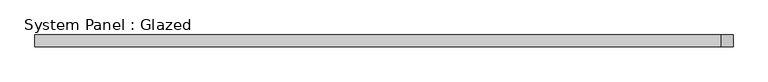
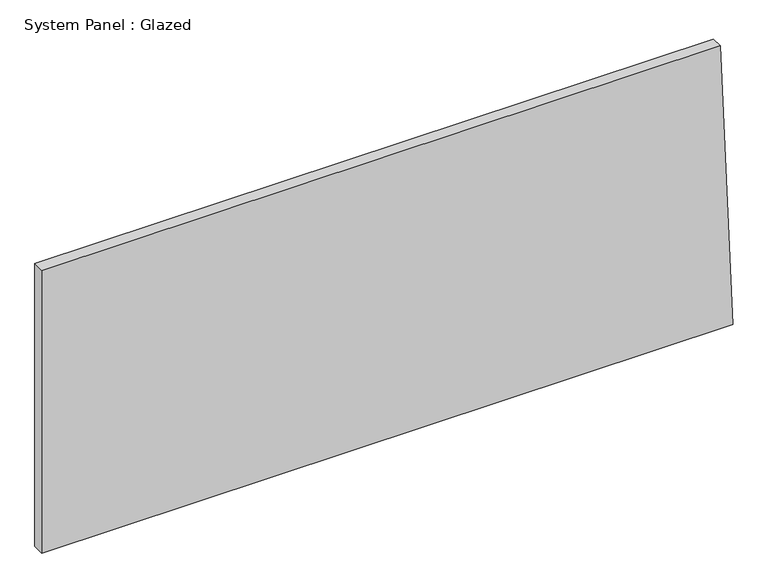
"""IFC4 building model written with IfcOpenShell, lengths in millimetres: plate geometry, System Panel : Glazed."""

import ifcopenshell
import ifcopenshell.guid

model = None  # the IFC model being written
_history = None  # IfcOwnerHistory: only IFC2X3 demands one
_inside = {}  # id of a spatial element -> (the spatial element, [elements in it])
_under = {}  # id of a project, library or spatial element -> (it, [spatial elements below it])
_declared = {}  # id of a project -> (the project, [libraries it declares])
_typed = {}  # id of a type object -> (the type object, [elements of that type])
_made_of = {}  # id of a material, layer set ... -> (it, [elements and type objects made of it])


def new_model(schema):
    """Start an empty IFC model of exactly this schema.

    Asked for "IFC4X3", IfcOpenShell would pick the latest addendum, in which some entities
    have other attributes; the version numbers below select the first issue.
    IFC2X3 requires an IfcOwnerHistory on every rooted entity: one is made here for all.
    """
    global model, _history
    if schema == "IFC4X3":
        model = ifcopenshell.file(schema_version=(4, 3, 0, 0))
    else:
        model = ifcopenshell.file(schema=schema)
    _inside.clear()
    _under.clear()
    _declared.clear()
    _typed.clear()
    _made_of.clear()
    _history = None
    if model.schema == "IFC2X3":
        org = make("IfcOrganization", Name="unknown")
        user = make(
            "IfcPersonAndOrganization",
            ThePerson=make("IfcPerson", FamilyName="unknown"),
            TheOrganization=org,
        )
        app = make(
            "IfcApplication",
            ApplicationDeveloper=org,
            Version="unknown",
            ApplicationFullName="unknown",
            ApplicationIdentifier="unknown",
        )
        _history = make(
            "IfcOwnerHistory",
            OwningUser=user,
            OwningApplication=app,
            ChangeAction="ADDED",
            CreationDate=0,
        )
    return model


def make(cls, **values):
    """One entity of the class cls with the attributes given. An attribute that is None is left unset."""
    return model.create_entity(
        cls, **{name: value for name, value in values.items() if value is not None}
    )


def rooted(cls, **values):
    """An entity with a GlobalId (a new one), such as an element, a storey or a relation."""
    return make(cls, GlobalId=ifcopenshell.guid.new(), OwnerHistory=_history, **values)


def si_unit(unit_type, name, prefix=None):
    """IfcSIUnit, for example si_unit("LENGTHUNIT", "METRE", prefix="MILLI")."""
    return make("IfcSIUnit", UnitType=unit_type, Prefix=prefix, Name=name)


def assignment(units):
    """IfcUnitAssignment: the units of a project."""
    return None if units is None else make("IfcUnitAssignment", Units=units)


def point(xyz):
    """IfcCartesianPoint."""
    return None if xyz is None else make("IfcCartesianPoint", Coordinates=xyz)


def direction(xyz):
    """IfcDirection."""
    return None if xyz is None else make("IfcDirection", DirectionRatios=xyz)


def frame(location, z_axis=None, x_axis=None):
    """IfcAxis2Placement3D, a coordinate frame: its origin and axes. An axis left out is left unset."""
    return make(
        "IfcAxis2Placement3D",
        Location=point(location),
        Axis=direction(z_axis),
        RefDirection=direction(x_axis),
    )


def origin():
    """The frame at (0, 0, 0) with its axes left unset."""
    return frame((0.0, 0.0, 0.0))


def place(relative_to, where):
    """IfcLocalPlacement: puts the frame where relative to a parent placement (None: the world)."""
    return make(
        "IfcLocalPlacement", PlacementRelTo=relative_to, RelativePlacement=where
    )


def context(
    kind, dimensions, precision=None, world=None, true_north=None, identifier=None
):
    """IfcGeometricRepresentationContext, for example the 3D "Model" context."""
    return make(
        "IfcGeometricRepresentationContext",
        ContextIdentifier=identifier,
        ContextType=kind,
        CoordinateSpaceDimension=dimensions,
        Precision=precision,
        WorldCoordinateSystem=world,
        TrueNorth=true_north,
    )


def project(units=None, contexts=None):
    """IfcProject with its units and contexts."""
    return rooted(
        "IfcProject",
        Name="project",
        RepresentationContexts=contexts,
        UnitsInContext=assignment(units),
    )


def spatial(cls, under=None, at=None, **own):
    """A site, building, storey or space (cls), placed at a placement, below another one or the project."""
    s = rooted(cls, ObjectPlacement=at, **own)
    if under is not None:
        _under.setdefault(under.id(), (under, []))[1].append(s)
    return s


def polyline(points):
    """IfcPolyline through the points."""
    return make("IfcPolyline", Points=[point(p) for p in points])


def outline(outer, holes=None, kind="AREA"):
    """IfcArbitraryClosedProfileDef: a profile drawn as a closed curve; with holes, ...WithVoids."""
    if holes is None:
        return make("IfcArbitraryClosedProfileDef", ProfileType=kind, OuterCurve=outer)
    return make(
        "IfcArbitraryProfileDefWithVoids",
        ProfileType=kind,
        OuterCurve=outer,
        InnerCurves=holes,
    )


def extrude(swept, where, along, depth):
    """IfcExtrudedAreaSolid: the profile swept, set in the frame where, extruded along a direction by depth."""
    return make(
        "IfcExtrudedAreaSolid",
        SweptArea=swept,
        Position=where,
        ExtrudedDirection=direction(along),
        Depth=depth,
    )


def shape(context_of_items, identifier, shape_type, items):
    """IfcShapeRepresentation: the items that make up one representation, for example the "Body"."""
    return make(
        "IfcShapeRepresentation",
        ContextOfItems=context_of_items,
        RepresentationIdentifier=identifier,
        RepresentationType=shape_type,
        Items=items,
    )


def source(mapping_origin, context_of_items, identifier, shape_type, items):
    """IfcRepresentationMap: a shape defined once, which mapped items show again and again."""
    return make(
        "IfcRepresentationMap",
        MappingOrigin=mapping_origin,
        MappedRepresentation=shape(context_of_items, identifier, shape_type, items),
    )


def transform(
    local_origin,
    x_axis=None,
    y_axis=None,
    z_axis=None,
    scale=None,
    scale2=None,
    scale3=None,
    uniform=True,
):
    """IfcCartesianTransformationOperator3D, or its non-uniform kind. x_axis, y_axis, z_axis: its Axis1, 2, 3."""
    if uniform:
        return make(
            "IfcCartesianTransformationOperator3D",
            Axis1=direction(x_axis),
            Axis2=direction(y_axis),
            LocalOrigin=point(local_origin),
            Scale=scale,
            Axis3=direction(z_axis),
        )
    return make(
        "IfcCartesianTransformationOperator3DnonUniform",
        Axis1=direction(x_axis),
        Axis2=direction(y_axis),
        LocalOrigin=point(local_origin),
        Scale=scale,
        Axis3=direction(z_axis),
        Scale2=scale2,
        Scale3=scale3,
    )


def mapped(mapping_source, mapping_target):
    """IfcMappedItem: shows the shape of a source again, moved by a transform."""
    return make(
        "IfcMappedItem", MappingSource=mapping_source, MappingTarget=mapping_target
    )


def made_of(thing, what):
    """Note that an element or type object is made of a material, layer set ...; save() writes the relation."""
    if what is not None:
        _made_of.setdefault(what.id(), (what, []))[1].append(thing)
    return thing


def element(
    cls,
    number,
    at=None,
    inside=None,
    cuts=None,
    type_object=None,
    material=None,
    context=None,
    identifier="Body",
    shape_type=None,
    held_by="IfcProductDefinitionShape",
    body=None,
    shapes=None,
    **own,
):
    """One element of the class cls, such as IfcWall. Its Tag is "e" and its number.

    at: its placement. inside: the storey or other place that contains it. cuts: it is an
    opening in that element (IfcRelVoidsElement). A single representation is given by context,
    identifier, shape_type and body (its items); several are given by shapes. held_by: the class
    of the entity that holds the representations. save() writes the other relations.
    """
    e = rooted(cls, Tag="e%d" % number, ObjectPlacement=at, **own)
    if body is not None:
        shapes = [shape(context, identifier, shape_type, body)]
    if shapes is not None:
        e.Representation = make(held_by, Representations=shapes)
    if inside is not None:
        _inside.setdefault(inside.id(), (inside, []))[1].append(e)
    if cuts is not None:
        rooted(
            "IfcRelVoidsElement", RelatingBuildingElement=cuts, RelatedOpeningElement=e
        )
    if type_object is not None:
        _typed.setdefault(type_object.id(), (type_object, []))[1].append(e)
    return made_of(e, material)


def aggregate(whole, parts):
    """IfcRelAggregates: a whole, such as a stair, and the parts it consists of."""
    return rooted("IfcRelAggregates", RelatingObject=whole, RelatedObjects=parts)


def save(model, path):
    """Write the relations noted so far, then the file.

    IfcRelAggregates (storeys below a building ...), IfcRelContainedInSpatialStructure (elements
    in a storey), IfcRelDefinesByType, IfcRelAssociatesMaterial and IfcRelDeclares: one each for
    every whole, place, type object, material and project.
    """
    for whole, parts in _under.values():
        aggregate(whole, parts)
    for where, things in _inside.values():
        rooted(
            "IfcRelContainedInSpatialStructure",
            RelatedElements=things,
            RelatingStructure=where,
        )
    for kind, things in _typed.values():
        rooted("IfcRelDefinesByType", RelatedObjects=things, RelatingType=kind)
    for what, things in _made_of.values():
        rooted("IfcRelAssociatesMaterial", RelatedObjects=things, RelatingMaterial=what)
    for by, libraries in _declared.values():
        rooted("IfcRelDeclares", RelatingContext=by, RelatedDefinitions=libraries)
    model.write(path)


def system_panel_glazed_7ee98c46(model_context):
    return source(origin(), model_context, "Body", "SweptSolid", [
        extrude(outline(polyline([(0.0, -752.0832616), (0.0, 752.0832616), (650.875, 724.9721481), (650.875, -752.0832616), (0.0, -752.0832616)])), frame((0.0, -44.45, 0.0), z_axis=(0.0, 1.0, 0.0), x_axis=(0.0, 0.0, 1.0)), (0.0, 0.0, 1.0), 25.4),
    ])


if __name__ == "__main__":
    model = new_model("IFC4")
    model_context = context("Model", 3, world=origin())
    ifc_project = project(units=[si_unit("LENGTHUNIT", "METRE", prefix="MILLI")], contexts=[model_context])
    site = spatial("IfcSite", under=ifc_project)
    building = spatial("IfcBuilding", under=site)
    placement = place(None, origin())
    system_panel_glazed_shape = system_panel_glazed_7ee98c46(model_context)
    element("IfcPlate", 1, ObjectType="System Panel : Glazed", at=placement, inside=building, context=model_context, shape_type="MappedRepresentation", body=[
        mapped(system_panel_glazed_shape, transform((0.0, 0.0, 0.0), x_axis=(1.0, 0.0, 0.0), y_axis=(0.0, 1.0, 0.0), z_axis=(0.0, 0.0, 1.0))),
    ])
    save(model, "model.ifc")
